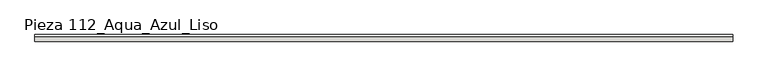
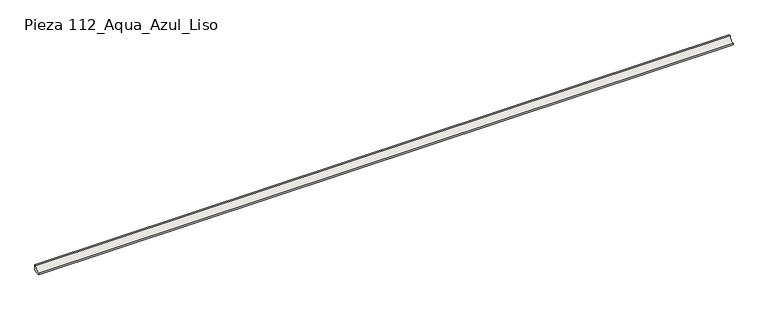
"""IFC4 building model written with IfcOpenShell, lengths in millimetres: slab geometry, ROSA GRES_112 : Pieza 112_Aqua_Azul_Liso."""

from ifc_helpers import new_model, si_unit, point, frame, frame_2d, origin, place, context, project, spatial, polyline, circle_curve, trimmed, segment, composite_curve, outline, extrude, source, transform, mapped, element, save


def pieza_112_aqua_azul_liso_9e5541d7(model_context):
    return source(origin(), model_context, "Body", "SweptSolid", [
        extrude(outline(composite_curve([segment(polyline([(0.0, 8.7114978), (-8.7114978, 0.0), (-40.0, 0.0), (-40.0, 9.9734114)]), True, "CONTINUOUS"), segment(trimmed(circle_curve(frame_2d((-39.9955547, 39.9955547)), 30.0221435), [point((-40.0, 9.9734114))], [point((-9.9734114, 40.0))], True, "CARTESIAN"), True, "CONTINUOUS"), segment(polyline([(-9.9734114, 40.0), (0.0, 40.0), (0.0, 8.7114978)]), True, "CONTINUOUS")], self_intersect=False)), frame((0.0, 0.0, 0.0), z_axis=(1.0, 0.0, 0.0), x_axis=(0.0, 1.0, 0.0)), (0.0, 0.0, 1.0), 4190.0),
    ])


if __name__ == "__main__":
    model = new_model("IFC4")
    model_context = context("Model", 3, world=origin())
    ifc_project = project(units=[si_unit("LENGTHUNIT", "METRE", prefix="MILLI")], contexts=[model_context])
    site = spatial("IfcSite", under=ifc_project)
    building = spatial("IfcBuilding", under=site)
    placement = place(None, origin())
    pieza_112_aqua_azul_liso_shape = pieza_112_aqua_azul_liso_9e5541d7(model_context)
    element("IfcSlab", 1, ObjectType="ROSA GRES_112 : Pieza 112_Aqua_Azul_Liso", at=placement, inside=building, context=model_context, shape_type="MappedRepresentation", body=[
        mapped(pieza_112_aqua_azul_liso_shape, transform((0.0, 0.0, 0.0), x_axis=(1.0, 0.0, 0.0), y_axis=(0.0, 1.0, 0.0), z_axis=(0.0, 0.0, 1.0))),
    ])
    save(model, "model.ifc")
